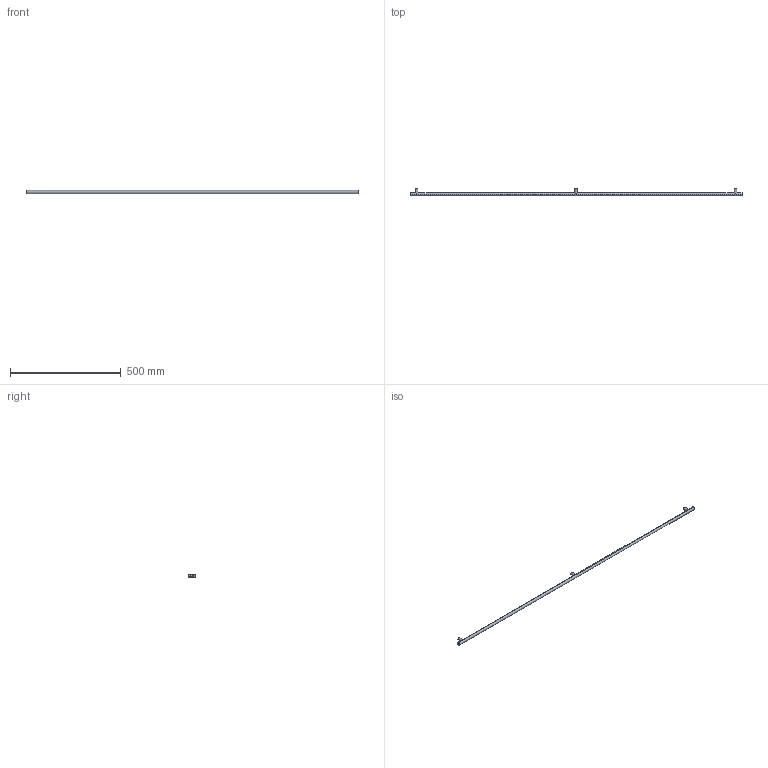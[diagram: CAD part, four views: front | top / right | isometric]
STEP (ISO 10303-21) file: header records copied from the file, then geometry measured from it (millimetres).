
FILE_DESCRIPTION( ( '' ), '1' );
FILE_NAME( 'D:/1.AUTOCAD EXPORT/Group 10/sheet_10_1/9071120.stp', '2013-10-21T10:03:40', ( '' ), ( '' ), ' ', ' ', ' ' );
FILE_SCHEMA( ( 'automotive_design' ) );
Length unit declared in the file: millimetre
Products named in the file (1): 1
Bounding box: 1500 x 35 x 14 mm (x, y, z)
Volume: 237825.1 mm3; surface area: 69239.1 mm2
Topology: 1 solids, 1 shells, 22 faces, 45 edges, 31 vertices
Faces by surface type: cylinder 14, plane 8
Entity records: 1358 total; most frequent: CARTESIAN_POINT 300, DIRECTION 104, STYLED_ITEM 99, PRESENTATION_STYLE_ASSIGNMENT 99, COLOUR_RGB 99, ORIENTED_EDGE 90, EDGE_CURVE 45, AXIS2_PLACEMENT_3D 45
